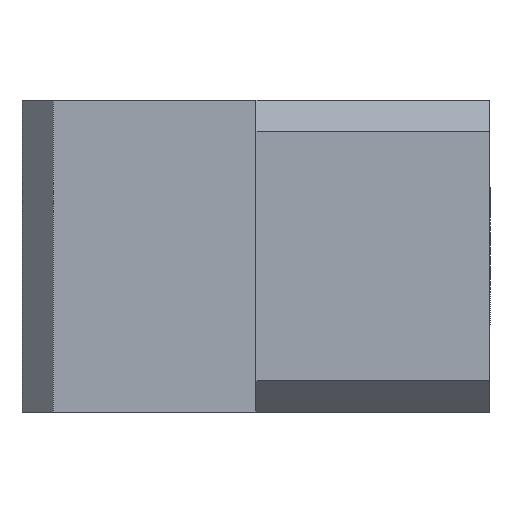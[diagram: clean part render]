
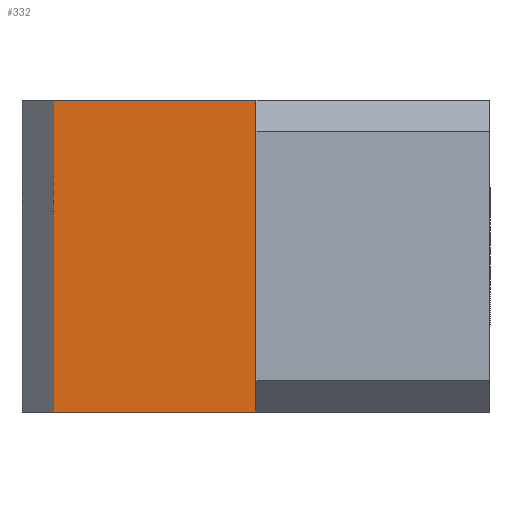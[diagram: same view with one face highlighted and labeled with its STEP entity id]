
A CAD part, left-side view. The second image highlights one B-rep face of the part: STEP entity #332.
In plain terms, the highlighted planar face has unit normal (-1, 0, 0).
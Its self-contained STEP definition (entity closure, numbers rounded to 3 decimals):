
#5 = DIRECTION ( 'NONE',  ( 0., 1., 0. ) ) ;
#16 = DIRECTION ( 'NONE',  ( 0., 0., 1. ) ) ;
#95 = DIRECTION ( 'NONE',  ( 0., -1., 0. ) ) ;
#99 = PLANE ( 'NONE',  #1125 ) ;
#104 = ORIENTED_EDGE ( 'NONE', *, *, #1069, .T. ) ;
#109 = LINE ( 'NONE', #320, #820 ) ;
#182 = FACE_OUTER_BOUND ( 'NONE', #1060, .T. ) ;
#275 = LINE ( 'NONE', #474, #361 ) ;
#320 = CARTESIAN_POINT ( 'NONE',  ( -30., 30., 0. ) ) ;
#332 = ADVANCED_FACE ( 'NONE', ( #182 ), #99, .F. ) ;
#361 = VECTOR ( 'NONE', #851, 1000. ) ;
#413 = LINE ( 'NONE', #693, #1076 ) ;
#424 = ORIENTED_EDGE ( 'NONE', *, *, #849, .F. ) ;
#430 = ORIENTED_EDGE ( 'NONE', *, *, #1107, .F. ) ;
#474 = CARTESIAN_POINT ( 'NONE',  ( -30., 15., 20. ) ) ;
#504 = DIRECTION ( 'NONE',  ( 0., 1., 0. ) ) ;
#616 = VERTEX_POINT ( 'NONE', #1022 ) ;
#693 = CARTESIAN_POINT ( 'NONE',  ( -30., 28., 20. ) ) ;
#707 = ORIENTED_EDGE ( 'NONE', *, *, #1222, .F. ) ;
#754 = LINE ( 'NONE', #1038, #779 ) ;
#779 = VECTOR ( 'NONE', #5, 1000. ) ;
#820 = VECTOR ( 'NONE', #504, 1000. ) ;
#849 = EDGE_CURVE ( 'NONE', #1074, #616, #109, .T. ) ;
#851 = DIRECTION ( 'NONE',  ( 0., 0., -1. ) ) ;
#882 = DIRECTION ( 'NONE',  ( 1., 0., 0. ) ) ;
#924 = CARTESIAN_POINT ( 'NONE',  ( -30., 15., 20. ) ) ;
#927 = VERTEX_POINT ( 'NONE', #1194 ) ;
#961 = CARTESIAN_POINT ( 'NONE',  ( -30., 30., 20. ) ) ;
#1022 = CARTESIAN_POINT ( 'NONE',  ( -30., 28., 0. ) ) ;
#1029 = VERTEX_POINT ( 'NONE', #924 ) ;
#1038 = CARTESIAN_POINT ( 'NONE',  ( -30., 30., 20. ) ) ;
#1060 = EDGE_LOOP ( 'NONE', ( #424, #430, #104, #707 ) ) ;
#1069 = EDGE_CURVE ( 'NONE', #1029, #927, #754, .T. ) ;
#1074 = VERTEX_POINT ( 'NONE', #1239 ) ;
#1076 = VECTOR ( 'NONE', #16, 1000. ) ;
#1107 = EDGE_CURVE ( 'NONE', #1029, #1074, #275, .T. ) ;
#1125 = AXIS2_PLACEMENT_3D ( 'NONE', #961, #882, #95 ) ;
#1194 = CARTESIAN_POINT ( 'NONE',  ( -30., 28., 20. ) ) ;
#1222 = EDGE_CURVE ( 'NONE', #616, #927, #413, .T. ) ;
#1239 = CARTESIAN_POINT ( 'NONE',  ( -30., 15., 0. ) ) ;
